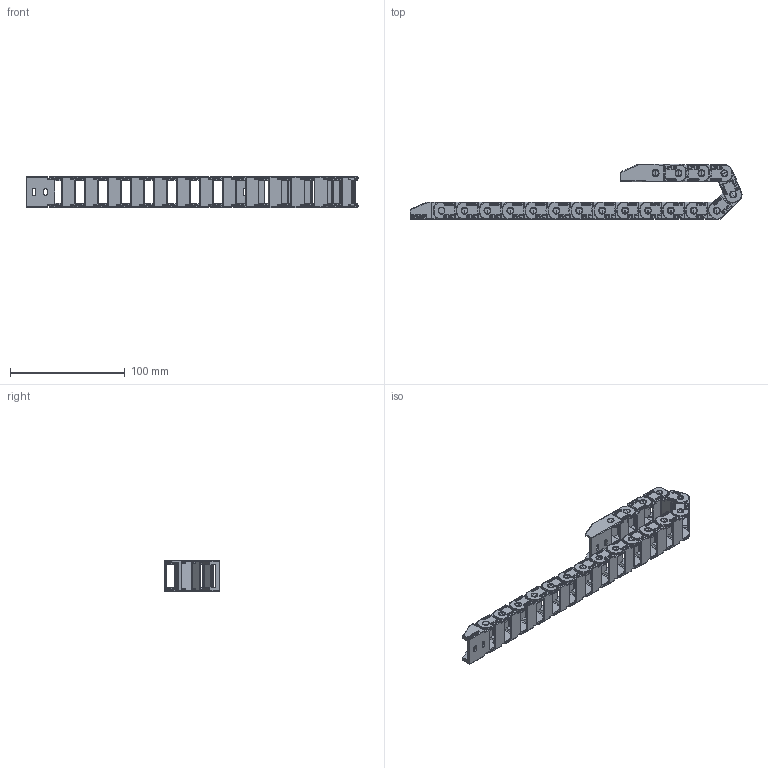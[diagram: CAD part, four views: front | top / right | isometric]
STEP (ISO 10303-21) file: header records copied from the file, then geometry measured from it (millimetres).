
FILE_DESCRIPTION (( 'STEP AP203' ), '1' );
FILE_NAME ('5-J10Q-02-20B-R18-桥式组件图-3D.STEP', '2016-08-24T07:57:59', ( 'china' ), ( 'china' ), 'SwSTEP 2.0', 'SolidWorks 2014', '' );
FILE_SCHEMA (( 'CONFIG_CONTROL_DESIGN' ));
Length unit declared in the file: millimetre
Products named in the file (4): J10Q-20B-XJT-N; 5-J10Q-02-20B-R18-桥式组件图-3D; J10Q-02-20B-ZT-R18; J10Q-15B-XJT-W
Assembly tree (19 placements, depth 2):
  5-J10Q-02-20B-R18-桥式组件图-3D
    J10Q-02-20B-ZT-R18  x17
    J10Q-15B-XJT-W
    J10Q-20B-XJT-N
Bounding box: 289.46 x 48.19 x 27.4 mm (x, y, z)
Volume: 47665.4 mm3; surface area: 62086.3 mm2
Topology: 19 solids, 19 shells, 5514 faces, 14283 edges, 9124 vertices
Faces by surface type: plane 2316, bspline 1636, cylinder 1085, sphere 246, torus 221, cone 10
Entity records: 31853 total; most frequent: CARTESIAN_POINT 15003, ORIENTED_EDGE 3642, DIRECTION 2688, EDGE_CURVE 1821, VERTEX_POINT 1168, VECTOR 1094, LINE 1094, AXIS2_PLACEMENT_3D 797
